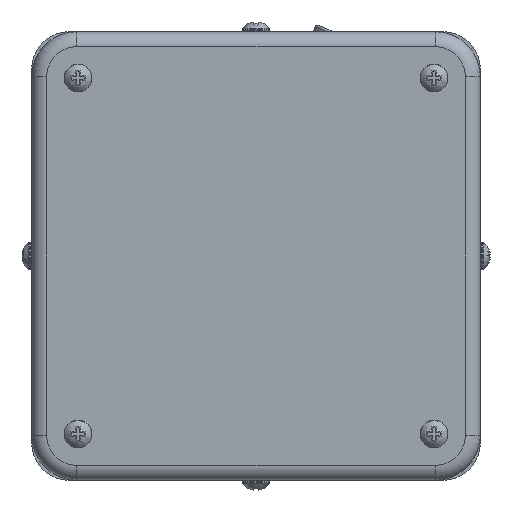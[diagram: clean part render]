
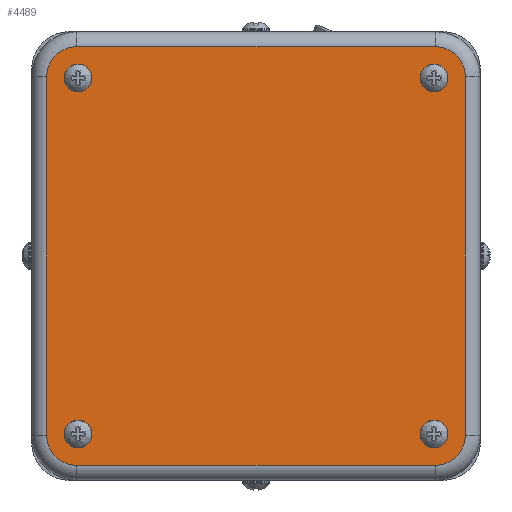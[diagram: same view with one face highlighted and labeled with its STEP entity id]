
A CAD part, left-side view. The second image highlights one B-rep face of the part: STEP entity #4489.
In plain terms, the highlighted planar face has unit normal (-1, 0, 0).
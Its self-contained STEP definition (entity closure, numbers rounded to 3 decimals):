
#101=CARTESIAN_POINT('',(-60.,-35.709,-32.909));
#102=VERTEX_POINT('',#101);
#103=CARTESIAN_POINT('',(-60.,-35.709,-35.709));
#104=DIRECTION('',(1.0,0.0,0.0));
#105=DIRECTION('',(0.0,0.0,-1.0));
#106=AXIS2_PLACEMENT_3D('',#103,#104,#105);
#107=CIRCLE('',#106,2.8);
#108=EDGE_CURVE('',#102,#102,#107,.T.);
#710=CARTESIAN_POINT('',(-60.,-35.709,38.509));
#711=VERTEX_POINT('',#710);
#712=CARTESIAN_POINT('',(-60.,-35.709,35.709));
#713=DIRECTION('',(1.0,0.0,0.0));
#714=DIRECTION('',(0.0,0.0,-1.0));
#715=AXIS2_PLACEMENT_3D('',#712,#713,#714);
#716=CIRCLE('',#715,2.8);
#717=EDGE_CURVE('',#711,#711,#716,.T.);
#1319=CARTESIAN_POINT('',(-60.,35.709,38.509));
#1320=VERTEX_POINT('',#1319);
#1321=CARTESIAN_POINT('',(-60.,35.709,35.709));
#1322=DIRECTION('',(1.0,0.0,0.0));
#1323=DIRECTION('',(0.0,0.0,-1.0));
#1324=AXIS2_PLACEMENT_3D('',#1321,#1322,#1323);
#1325=CIRCLE('',#1324,2.8);
#1326=EDGE_CURVE('',#1320,#1320,#1325,.T.);
#4394=CARTESIAN_POINT('',(-60.,7.027,7.027));
#4395=DIRECTION('',(1.0,0.0,0.0));
#4396=DIRECTION('',(0.0,0.0,1.0));
#4397=AXIS2_PLACEMENT_3D('',#4394,#4395,#4396);
#4398=PLANE('',#4397);
#4399=CARTESIAN_POINT('',(-60.,42.,36.));
#4400=VERTEX_POINT('',#4399);
#4401=CARTESIAN_POINT('',(-60.,36.,42.));
#4402=VERTEX_POINT('',#4401);
#4403=CARTESIAN_POINT('',(-60.,36.,36.));
#4404=DIRECTION('',(1.0,0.,0.));
#4405=DIRECTION('',(0.,0.707,0.707));
#4406=AXIS2_PLACEMENT_3D('',#4403,#4404,#4405);
#4407=CIRCLE('',#4406,6.);
#4408=EDGE_CURVE('',#4400,#4402,#4407,.T.);
#4409=ORIENTED_EDGE('',*,*,#4408,.F.);
#4410=CARTESIAN_POINT('',(-60.,42.,-36.));
#4411=VERTEX_POINT('',#4410);
#4412=CARTESIAN_POINT('',(-60.,42.,-36.0));
#4413=DIRECTION('',(0.0,0.0,1.0));
#4414=VECTOR('',#4413,72.0);
#4415=LINE('',#4412,#4414);
#4416=EDGE_CURVE('',#4411,#4400,#4415,.T.);
#4417=ORIENTED_EDGE('',*,*,#4416,.F.);
#4418=CARTESIAN_POINT('',(-60.,36.,-42.));
#4419=VERTEX_POINT('',#4418);
#4420=CARTESIAN_POINT('',(-60.,36.,-36.));
#4421=DIRECTION('',(1.,0.,0.));
#4422=DIRECTION('',(0.,0.707,-0.707));
#4423=AXIS2_PLACEMENT_3D('',#4420,#4421,#4422);
#4424=CIRCLE('',#4423,6.);
#4425=EDGE_CURVE('',#4419,#4411,#4424,.T.);
#4426=ORIENTED_EDGE('',*,*,#4425,.F.);
#4427=CARTESIAN_POINT('',(-60.,-36.,-42.));
#4428=VERTEX_POINT('',#4427);
#4429=CARTESIAN_POINT('',(-60.,-36.,-42.));
#4430=DIRECTION('',(0.0,1.0,0.0));
#4431=VECTOR('',#4430,72.0);
#4432=LINE('',#4429,#4431);
#4433=EDGE_CURVE('',#4428,#4419,#4432,.T.);
#4434=ORIENTED_EDGE('',*,*,#4433,.F.);
#4435=CARTESIAN_POINT('',(-60.,-42.,-36.0));
#4436=VERTEX_POINT('',#4435);
#4437=CARTESIAN_POINT('',(-60.,-36.,-36.0));
#4438=DIRECTION('',(1.0,0.,0.));
#4439=DIRECTION('',(0.,-0.707,-0.707));
#4440=AXIS2_PLACEMENT_3D('',#4437,#4438,#4439);
#4441=CIRCLE('',#4440,6.);
#4442=EDGE_CURVE('',#4436,#4428,#4441,.T.);
#4443=ORIENTED_EDGE('',*,*,#4442,.F.);
#4444=CARTESIAN_POINT('',(-60.,-42.,36.));
#4445=VERTEX_POINT('',#4444);
#4446=CARTESIAN_POINT('',(-60.,-42.,36.));
#4447=DIRECTION('',(0.0,0.0,-1.0));
#4448=VECTOR('',#4447,72.);
#4449=LINE('',#4446,#4448);
#4450=EDGE_CURVE('',#4445,#4436,#4449,.T.);
#4451=ORIENTED_EDGE('',*,*,#4450,.F.);
#4452=CARTESIAN_POINT('',(-60.,-36.,42.));
#4453=VERTEX_POINT('',#4452);
#4454=CARTESIAN_POINT('',(-60.,-36.,36.));
#4455=DIRECTION('',(1.,0.,0.));
#4456=DIRECTION('',(0.,-0.707,0.707));
#4457=AXIS2_PLACEMENT_3D('',#4454,#4455,#4456);
#4458=CIRCLE('',#4457,6.);
#4459=EDGE_CURVE('',#4453,#4445,#4458,.T.);
#4460=ORIENTED_EDGE('',*,*,#4459,.F.);
#4461=CARTESIAN_POINT('',(-60.,36.,42.));
#4462=DIRECTION('',(0.0,-1.0,0.0));
#4463=VECTOR('',#4462,72.0);
#4464=LINE('',#4461,#4463);
#4465=EDGE_CURVE('',#4402,#4453,#4464,.T.);
#4466=ORIENTED_EDGE('',*,*,#4465,.F.);
#4467=EDGE_LOOP('',(#4409,#4417,#4426,#4434,#4443,#4451,#4460,#4466));
#4468=FACE_OUTER_BOUND('',#4467,.T.);
#4469=ORIENTED_EDGE('',*,*,#108,.T.);
#4470=EDGE_LOOP('',(#4469));
#4471=FACE_BOUND('',#4470,.T.);
#4472=CARTESIAN_POINT('',(-60.,35.709,-32.909));
#4473=VERTEX_POINT('',#4472);
#4474=CARTESIAN_POINT('',(-60.,35.709,-35.709));
#4475=DIRECTION('',(1.0,0.0,0.0));
#4476=DIRECTION('',(0.0,0.0,-1.0));
#4477=AXIS2_PLACEMENT_3D('',#4474,#4475,#4476);
#4478=CIRCLE('',#4477,2.8);
#4479=EDGE_CURVE('',#4473,#4473,#4478,.T.);
#4480=ORIENTED_EDGE('',*,*,#4479,.T.);
#4481=EDGE_LOOP('',(#4480));
#4482=FACE_BOUND('',#4481,.T.);
#4483=ORIENTED_EDGE('',*,*,#717,.T.);
#4484=EDGE_LOOP('',(#4483));
#4485=FACE_BOUND('',#4484,.T.);
#4486=ORIENTED_EDGE('',*,*,#1326,.T.);
#4487=EDGE_LOOP('',(#4486));
#4488=FACE_BOUND('',#4487,.T.);
#4489=ADVANCED_FACE('',(#4468,#4471,#4482,#4485,#4488),#4398,.F.);
